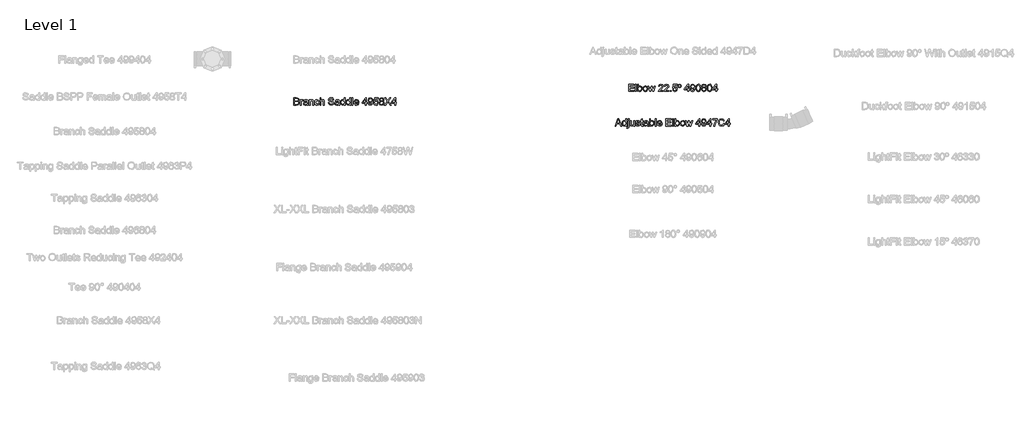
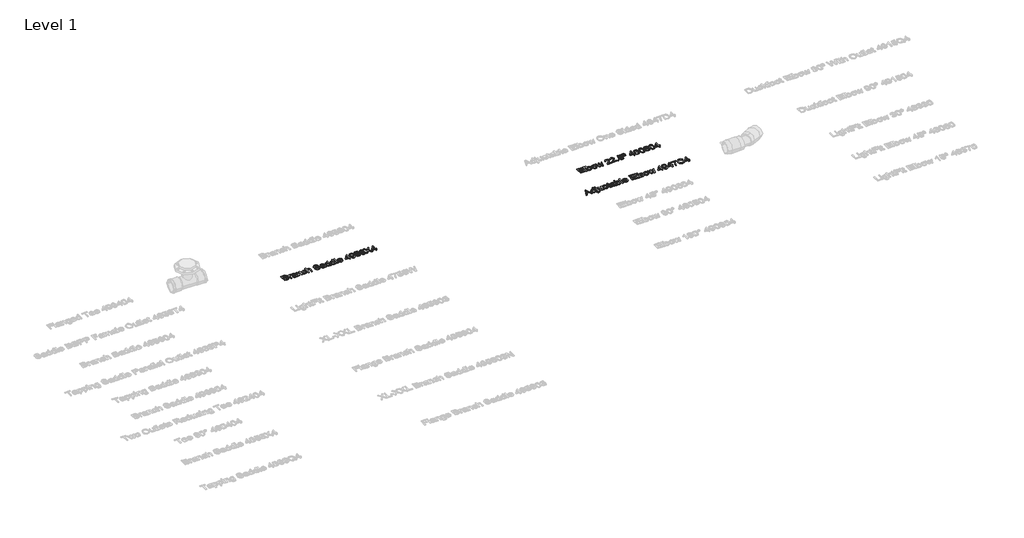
# One storey, part 14 of 38: 3 proxies.
"""IFC4 building model written with IfcOpenShell, lengths in millimetres."""

from ifc_helpers import new_model, si_unit, origin, origin_with_axes, place, context, project, spatial, polyline, outline, extrude, element, save

model = new_model("IFC4")

# Units and contexts
model_context = context("Model", 3, world=origin())
ifc_project = project(units=[si_unit("LENGTHUNIT", "METRE", prefix="MILLI")], contexts=[model_context])

# Site, building, storey
site = spatial("IfcSite", under=ifc_project)
building = spatial("IfcBuilding", under=site)
storey = spatial("IfcBuildingStorey", under=building, Name="Level 1", Elevation=0.0)

# Proxies
placement = place(None, origin())
element("IfcBuildingElementProxy", 1, Name="100 mm Arial", ObjectType="100 mm Arial", at=placement, inside=storey, context=model_context, shape_type="SweptSolid", body=[
    extrude(outline(polyline([(11300.1412583, 4708.1156584), (11300.1412583, 4767.1925814), (11342.6027968, 4767.1925814), (11342.6027968, 4759.8079661), (11307.5258737, 4759.8079661), (11307.5258737, 4742.2695045), (11340.756643, 4742.2695045), (11340.756643, 4734.8848891), (11307.5258737, 4734.8848891), (11307.5258737, 4715.5002738), (11343.5258737, 4715.5002738), (11343.5258737, 4708.1156584), (11300.1412583, 4708.1156584)])), origin_with_axes(), (0.0, 0.0, 1.0), 5.0),
    extrude(outline(polyline([(11353.6797199, 4708.1156584), (11353.6797199, 4767.1925814), (11361.0643353, 4767.1925814), (11361.0643353, 4708.1156584), (11353.6797199, 4708.1156584)])), origin_with_axes(), (0.0, 0.0, 1.0), 5.0),
    extrude(outline(polyline([(11379.5258737, 4708.1156584), (11372.1412583, 4708.1156584), (11372.1412583, 4767.1925814), (11379.5258737, 4767.1925814), (11379.5258737, 4745.2839276), (11384.6965468, 4750.6384949), (11391.1220276, 4752.4233507), (11398.521066, 4750.8151776), (11404.2614506, 4746.293543), (11407.787893, 4739.262293), (11409.0643353, 4730.4570045), (11407.7428208, 4720.5988314), (11403.7782776, 4713.2646968), (11397.9603689, 4708.7106103), (11391.0787583, 4707.1925814), (11384.5126526, 4709.1505141), (11379.5258737, 4715.0243122), (11379.5258737, 4708.1156584)]), holes=[polyline([(11379.5258737, 4730.1108507), (11381.5451045, 4719.7839276), (11390.444143, 4714.5771968), (11398.3479891, 4718.4137353), (11401.6797199, 4729.8512353), (11398.4850083, 4741.3320045), (11390.7614506, 4745.0387353), (11382.8576045, 4741.2021968), (11379.5258737, 4730.1108507)])]), origin_with_axes(), (0.0, 0.0, 1.0), 5.0),
    extrude(outline(polyline([(11415.5258737, 4729.8079661), (11417.1232295, 4740.2683026), (11421.9152968, 4747.6204661), (11434.9249122, 4752.4233507), (11442.6827247, 4750.9612113), (11448.8792391, 4746.574793), (11452.9411381, 4739.6102497), (11454.2951045, 4730.4137353), (11451.9008737, 4717.2743122), (11444.927316, 4709.8392161), (11434.9249122, 4707.1925814), (11427.0733497, 4708.6493122), (11420.8840468, 4713.0195045), (11416.865417, 4720.1300814), (11415.5258737, 4729.8079661)]), holes=[polyline([(11422.9104891, 4729.8223891), (11426.3287583, 4718.3776776), (11434.9249122, 4714.5771968), (11443.4922199, 4718.3993122), (11446.9104891, 4730.0531584), (11443.4705853, 4741.2382545), (11434.9249122, 4745.0387353), (11426.3287583, 4741.2526776), (11422.9104891, 4729.8223891)])]), origin_with_axes(), (0.0, 0.0, 1.0), 5.0),
    extrude(outline(polyline([(11469.7999122, 4708.1156584), (11456.6027968, 4751.5002738), (11464.2758737, 4751.5002738), (11471.7614506, 4726.1877738), (11473.9970276, 4717.1445045), (11475.8287583, 4725.856043), (11481.7854891, 4751.5002738), (11490.583566, 4751.5002738), (11496.5114506, 4725.9281584), (11498.1412583, 4718.0387353), (11500.4777968, 4726.3608507), (11507.9777968, 4751.5002738), (11515.6797199, 4751.5002738), (11502.381643, 4708.1156584), (11493.4537583, 4708.1156584), (11487.7854891, 4733.5579661), (11486.1412583, 4741.4906584), (11478.8287583, 4708.1156584), (11469.7999122, 4708.1156584)])), origin_with_axes(), (0.0, 0.0, 1.0), 5.0),
    extrude(outline(polyline([(11579.833566, 4715.5002738), (11579.833566, 4708.1156584), (11541.0643353, 4708.1156584), (11541.8576045, 4713.2070045), (11546.3431814, 4721.0459468), (11555.5883737, 4729.606043), (11568.3383737, 4741.9089276), (11571.5258737, 4750.2743122), (11568.5186622, 4757.0459468), (11560.6652968, 4759.8079661), (11552.4802006, 4757.1108507), (11549.3720276, 4749.6541199), (11541.9874122, 4750.5771968), (11547.6484699, 4762.9377738), (11560.8239506, 4767.1925814), (11574.0427006, 4762.4618122), (11578.9104891, 4750.7214276), (11577.5979891, 4743.7190238), (11573.2350083, 4736.4786391), (11562.6556814, 4726.3608507), (11554.1604891, 4719.2574853), (11550.8287583, 4715.5002738), (11579.833566, 4715.5002738)])), origin_with_axes(), (0.0, 0.0, 1.0), 5.0),
    extrude(outline(polyline([(11625.0643353, 4715.5002738), (11625.0643353, 4708.1156584), (11586.2951045, 4708.1156584), (11587.0883737, 4713.2070045), (11591.5739506, 4721.0459468), (11600.819143, 4729.606043), (11613.569143, 4741.9089276), (11616.756643, 4750.2743122), (11613.7494314, 4757.0459468), (11605.896066, 4759.8079661), (11597.7109699, 4757.1108507), (11594.6027968, 4749.6541199), (11587.2181814, 4750.5771968), (11592.8792391, 4762.9377738), (11606.0547199, 4767.1925814), (11619.2734699, 4762.4618122), (11624.1412583, 4750.7214276), (11622.8287583, 4743.7190238), (11618.4657776, 4736.4786391), (11607.8864506, 4726.3608507), (11599.3912583, 4719.2574853), (11596.0595276, 4715.5002738), (11625.0643353, 4715.5002738)])), origin_with_axes(), (0.0, 0.0, 1.0), 5.0),
    extrude(outline(polyline([(11636.1412583, 4708.1156584), (11636.1412583, 4715.5002738), (11643.5258737, 4715.5002738), (11643.5258737, 4708.1156584), (11636.1412583, 4708.1156584)])), origin_with_axes(), (0.0, 0.0, 1.0), 5.0),
    extrude(outline(polyline([(11655.5258737, 4723.8079661), (11662.9104891, 4724.731043), (11666.631643, 4717.1228699), (11674.3479891, 4714.5771968), (11683.6076045, 4718.1180622), (11686.9104891, 4727.5146968), (11683.8167391, 4736.2839276), (11674.4633737, 4739.5002738), (11667.9802006, 4738.2166199), (11663.833566, 4734.8848891), (11656.4489506, 4735.8079661), (11662.9104891, 4766.2695045), (11691.5258737, 4766.2695045), (11691.5258737, 4758.8848891), (11668.881643, 4758.8848891), (11665.7229891, 4742.6156584), (11676.5258737, 4746.8848891), (11689.1532776, 4741.5916199), (11694.2951045, 4727.9762353), (11689.6652968, 4714.2743122), (11683.0162583, 4708.9630141), (11674.319143, 4707.1925814), (11661.287893, 4711.7430622), (11655.5258737, 4723.8079661)])), origin_with_axes(), (0.0, 0.0, 1.0), 5.0),
    extrude(outline(polyline([(11712.2951045, 4768.1156584), (11721.944143, 4764.0627738), (11725.6797199, 4752.8704661), (11721.9225083, 4741.7070045), (11712.3383737, 4737.6541199), (11702.6677006, 4741.6276776), (11698.9104891, 4752.6973891), (11702.646066, 4764.0627738), (11712.2951045, 4768.1156584)]), holes=[polyline([(11712.2951045, 4762.5771968), (11707.9465468, 4760.3055622), (11706.2951045, 4752.8848891), (11707.975393, 4745.5291199), (11712.2951045, 4743.1925814), (11716.6292391, 4745.5291199), (11718.2951045, 4753.0868122), (11716.614816, 4760.262293), (11712.2951045, 4762.5771968)])]), origin_with_axes(), (0.0, 0.0, 1.0), 5.0),
    extrude(outline(polyline([(11778.2951045, 4708.1156584), (11778.2951045, 4721.9618122), (11751.5258737, 4721.9618122), (11751.5258737, 4729.3464276), (11780.1412583, 4766.2695045), (11785.6797199, 4766.2695045), (11785.6797199, 4729.3464276), (11793.0643353, 4729.3464276), (11793.0643353, 4721.9618122), (11785.6797199, 4721.9618122), (11785.6797199, 4708.1156584), (11778.2951045, 4708.1156584)]), holes=[polyline([(11778.2951045, 4729.3464276), (11778.2951045, 4752.1637353), (11760.6124122, 4729.3464276), (11778.2951045, 4729.3464276)])]), origin_with_axes(), (0.0, 0.0, 1.0), 5.0),
    extrude(outline(polyline([(11800.4489506, 4722.8848891), (11807.833566, 4723.8079661), (11811.1508737, 4716.762293), (11817.4393353, 4714.5771968), (11823.4177006, 4715.9834468), (11827.4705853, 4719.7406584), (11829.8864506, 4726.1589276), (11830.9537583, 4734.7262353), (11825.0042391, 4730.5723891), (11816.9056814, 4728.4233507), (11804.5667391, 4733.6733507), (11799.5258737, 4747.5050814), (11804.8119314, 4761.7839276), (11818.0595276, 4767.1925814), (11828.5811622, 4764.106043), (11835.8215468, 4755.3079661), (11838.2951045, 4738.7791199), (11835.8287583, 4720.8440238), (11828.4946237, 4710.6829661), (11817.0931814, 4707.1925814), (11805.7422199, 4711.3103699), (11800.4489506, 4722.8848891)]), holes=[polyline([(11830.9104891, 4747.6781584), (11827.7229891, 4756.5339276), (11819.256643, 4759.8079661), (11810.3720276, 4756.2815238), (11806.9104891, 4747.1445045), (11810.1845276, 4738.9594084), (11819.0547199, 4735.8079661), (11827.5715468, 4738.9594084), (11830.9104891, 4747.6781584)])]), origin_with_axes(), (0.0, 0.0, 1.0), 5.0),
    extrude(outline(polyline([(11844.756643, 4737.1781584), (11846.927316, 4754.1757545), (11853.3744314, 4763.9762353), (11864.1412583, 4767.1925814), (11872.7662583, 4765.2887353), (11878.7229891, 4759.8007545), (11882.1845276, 4751.0603699), (11883.5258737, 4737.1781584), (11881.3768353, 4720.2526776), (11874.9513545, 4710.4305622), (11864.1412583, 4707.1925814), (11856.4681814, 4708.5988314), (11850.6412583, 4712.8175814), (11846.2277968, 4722.809168), (11844.756643, 4737.1781584)]), holes=[polyline([(11852.1412583, 4737.1925814), (11855.6027968, 4718.8536391), (11864.1412583, 4714.5771968), (11872.6797199, 4718.8680622), (11876.1412583, 4737.1925814), (11872.7951045, 4755.3223891), (11864.0547199, 4759.8079661), (11855.7181814, 4755.856043), (11852.1412583, 4737.1925814)])]), origin_with_axes(), (0.0, 0.0, 1.0), 5.0),
    extrude(outline(polyline([(11900.7470276, 4740.6541199), (11894.0186622, 4745.2406584), (11891.833566, 4752.3800814), (11896.5931814, 4762.9233507), (11909.271066, 4767.1925814), (11922.0643353, 4762.8223891), (11926.9104891, 4752.1781584), (11924.7542391, 4745.2190238), (11918.2133737, 4740.6541199), (11926.0667391, 4734.8632545), (11928.756643, 4725.3079661), (11923.4201045, 4712.4137353), (11909.3720276, 4707.1925814), (11895.3239506, 4712.4353699), (11889.9874122, 4725.5098891), (11892.7854891, 4735.2887353), (11900.7470276, 4740.6541199)]), holes=[polyline([(11897.3720276, 4725.7695045), (11898.6052006, 4720.2094084), (11902.9681814, 4716.0483507), (11909.4297199, 4714.5771968), (11918.2277968, 4717.6709468), (11921.3720276, 4725.5387353), (11918.1268353, 4733.5579661), (11909.1845276, 4736.731043), (11900.4946237, 4733.6012353), (11897.3720276, 4725.7695045)]), polyline([(11899.2181814, 4752.1637353), (11901.8359699, 4746.3656584), (11909.458566, 4744.1156584), (11916.9297199, 4746.3512353), (11919.5258737, 4751.8320045), (11916.8431814, 4757.5074853), (11909.3720276, 4759.8079661), (11901.8792391, 4757.5579661), (11899.2181814, 4752.1637353)])]), origin_with_axes(), (0.0, 0.0, 1.0), 5.0),
    extrude(outline(polyline([(11935.2181814, 4737.1781584), (11937.3888545, 4754.1757545), (11943.8359699, 4763.9762353), (11954.6027968, 4767.1925814), (11963.2277968, 4765.2887353), (11969.1845276, 4759.8007545), (11972.646066, 4751.0603699), (11973.9874122, 4737.1781584), (11971.8383737, 4720.2526776), (11965.412893, 4710.4305622), (11954.6027968, 4707.1925814), (11946.9297199, 4708.5988314), (11941.1027968, 4712.8175814), (11936.6893353, 4722.809168), (11935.2181814, 4737.1781584)]), holes=[polyline([(11942.6027968, 4737.1925814), (11946.0643353, 4718.8536391), (11954.6027968, 4714.5771968), (11963.1412583, 4718.8680622), (11966.6027968, 4737.1925814), (11963.256643, 4755.3223891), (11954.5162583, 4759.8079661), (11946.1797199, 4755.856043), (11942.6027968, 4737.1925814)])]), origin_with_axes(), (0.0, 0.0, 1.0), 5.0),
    extrude(outline(polyline([(12004.4489506, 4708.1156584), (12004.4489506, 4721.9618122), (11977.6797199, 4721.9618122), (11977.6797199, 4729.3464276), (12006.2951045, 4766.2695045), (12011.833566, 4766.2695045), (12011.833566, 4729.3464276), (12019.2181814, 4729.3464276), (12019.2181814, 4721.9618122), (12011.833566, 4721.9618122), (12011.833566, 4708.1156584), (12004.4489506, 4708.1156584)]), holes=[polyline([(12004.4489506, 4729.3464276), (12004.4489506, 4752.1637353), (11986.7662583, 4729.3464276), (12004.4489506, 4729.3464276)])]), origin_with_axes(), (0.0, 0.0, 1.0), 5.0),
])
element("IfcBuildingElementProxy", 2, Name="100 mm Arial", ObjectType="100 mm Arial", at=placement, inside=storey, context=model_context, shape_type="SweptSolid", body=[
    extrude(outline(polyline([(11189.8768353, 4428.1156584), (11213.458566, 4487.1925814), (11219.7470276, 4487.1925814), (11243.3287583, 4428.1156584), (11235.5258737, 4428.1156584), (11228.7614506, 4446.5771968), (11204.4297199, 4446.5771968), (11197.6797199, 4428.1156584), (11189.8768353, 4428.1156584)]), holes=[polyline([(11207.1412583, 4453.9618122), (11226.0643353, 4453.9618122), (11220.7422199, 4468.4858507), (11216.6027968, 4479.8079661), (11212.9249122, 4469.7550814), (11207.1412583, 4453.9618122)])]), origin_with_axes(), (0.0, 0.0, 1.0), 5.0),
    extrude(outline(polyline([(11277.0643353, 4428.1156584), (11277.0643353, 4435.0820045), (11272.178518, 4429.1649372), (11265.4249122, 4427.1925814), (11256.2806814, 4430.0483507), (11249.819143, 4438.0171007), (11247.5258737, 4449.7646968), (11249.6388545, 4461.5195045), (11255.9705853, 4469.6108507), (11265.396066, 4472.4233507), (11272.2037583, 4470.4113314), (11277.0643353, 4465.1829661), (11277.0643353, 4487.1925814), (11284.4489506, 4487.1925814), (11284.4489506, 4428.1156584), (11277.0643353, 4428.1156584)]), holes=[polyline([(11254.9104891, 4449.793543), (11258.2422199, 4438.3632545), (11266.1027968, 4434.5771968), (11273.8696237, 4438.1901776), (11277.0643353, 4449.231043), (11273.8119314, 4461.2166199), (11265.7999122, 4465.0387353), (11258.0258737, 4461.3680622), (11254.9104891, 4449.793543)])]), origin_with_axes(), (0.0, 0.0, 1.0), 5.0),
    extrude(outline(polyline([(11295.5258737, 4479.8079661), (11295.5258737, 4487.1925814), (11302.9104891, 4487.1925814), (11302.9104891, 4479.8079661), (11295.5258737, 4479.8079661)])), origin_with_axes(), (0.0, 0.0, 1.0), 5.0),
    extrude(outline(polyline([(11286.2229891, 4411.4714276), (11287.7806814, 4418.4954661), (11291.1701045, 4417.9618122), (11294.4513545, 4419.4257545), (11295.5258737, 4426.7454661), (11295.5258737, 4471.5002738), (11302.9104891, 4471.5002738), (11302.9104891, 4425.793543), (11300.819143, 4414.6589276), (11291.9922199, 4410.5771968), (11286.2229891, 4411.4714276)])), origin_with_axes(), (0.0, 0.0, 1.0), 5.0),
    extrude(outline(polyline([(11341.6797199, 4428.1156584), (11341.6797199, 4435.5723891), (11335.896066, 4429.2875334), (11328.3527968, 4427.1925814), (11321.4080853, 4428.6637353), (11316.6196237, 4432.356043), (11314.4201045, 4437.793543), (11313.9874122, 4444.6589276), (11313.9874122, 4471.5002738), (11321.3720276, 4471.5002738), (11321.3720276, 4448.1348891), (11321.819143, 4440.606043), (11324.739816, 4436.1853699), (11330.2422199, 4434.5771968), (11336.4080853, 4436.2214276), (11340.4826045, 4440.699793), (11341.6797199, 4448.9281584), (11341.6797199, 4471.5002738), (11349.0643353, 4471.5002738), (11349.0643353, 4428.1156584), (11341.6797199, 4428.1156584)])), origin_with_axes(), (0.0, 0.0, 1.0), 5.0),
    extrude(outline(polyline([(11356.4489506, 4441.0387353), (11363.833566, 4441.9618122), (11367.2518353, 4436.481043), (11375.083566, 4434.5771968), (11382.6124122, 4436.3223891), (11385.0643353, 4440.418543), (11382.5979891, 4443.7358507), (11374.9970276, 4445.8416199), (11363.8768353, 4449.4546007), (11359.0234699, 4453.6733507), (11357.3720276, 4459.6300814), (11358.6989506, 4465.1324853), (11362.319143, 4469.3368122), (11367.0138545, 4471.5219084), (11373.3672199, 4472.4233507), (11382.3527968, 4470.9738314), (11388.0643353, 4467.0507545), (11390.6027968, 4460.4233507), (11383.2181814, 4459.5002738), (11380.4417391, 4463.574793), (11373.944143, 4465.0387353), (11366.8768353, 4463.6396968), (11364.756643, 4460.3800814), (11365.6364506, 4458.231043), (11368.3912583, 4456.6012353), (11374.7518353, 4455.0291199), (11385.5907776, 4451.5531584), (11390.6244314, 4447.6156584), (11392.4489506, 4441.1973891), (11390.3071237, 4434.1300814), (11384.1268353, 4429.0026776), (11374.9826045, 4427.1925814), (11362.1027968, 4430.6829661), (11356.4489506, 4441.0387353)])), origin_with_axes(), (0.0, 0.0, 1.0), 5.0),
    extrude(outline(polyline([(11416.4489506, 4434.2743122), (11417.3720276, 4427.8993122), (11411.8479891, 4427.1925814), (11405.6604891, 4428.418543), (11402.5739506, 4431.6348891), (11401.6797199, 4440.0146968), (11401.6797199, 4464.1156584), (11396.1412583, 4464.1156584), (11396.1412583, 4471.5002738), (11401.6797199, 4471.5002738), (11401.6797199, 4482.043543), (11409.0643353, 4486.3848891), (11409.0643353, 4471.5002738), (11416.4489506, 4471.5002738), (11416.4489506, 4464.1156584), (11409.0643353, 4464.1156584), (11409.0643353, 4440.231043), (11409.4537583, 4436.4233507), (11410.7157776, 4435.074793), (11413.2326045, 4434.5771968), (11416.4489506, 4434.2743122)])), origin_with_axes(), (0.0, 0.0, 1.0), 5.0),
    extrude(outline(polyline([(11451.5258737, 4433.6541199), (11444.364816, 4428.6493122), (11436.4537583, 4427.1925814), (11425.7302006, 4430.6973891), (11421.9874122, 4439.6541199), (11423.4008737, 4445.4954661), (11427.114816, 4449.7358507), (11432.2854891, 4452.1589276), (11438.6749122, 4453.2695045), (11451.4826045, 4455.8079661), (11451.5258737, 4457.4521968), (11449.4922199, 4462.9041199), (11441.3287583, 4465.0387353), (11433.8576045, 4463.6180622), (11430.2951045, 4458.5771968), (11422.9104891, 4459.5002738), (11426.1052006, 4466.7118122), (11432.537893, 4470.9377738), (11442.2806814, 4472.4233507), (11451.2302006, 4471.1108507), (11456.2854891, 4467.8151776), (11458.5499122, 4462.8031584), (11458.9104891, 4456.3416199), (11458.9104891, 4447.1541199), (11459.2854891, 4434.324793), (11460.756643, 4428.1156584), (11453.3720276, 4428.1156584), (11451.5258737, 4433.6541199)]), holes=[polyline([(11451.5258737, 4448.4233507), (11439.6124122, 4446.1589276), (11433.2590468, 4444.9618122), (11430.381643, 4443.0146968), (11429.3720276, 4440.1733507), (11431.5715468, 4436.1781584), (11438.0258737, 4434.5771968), (11445.4970276, 4436.3440238), (11450.3143353, 4440.6204661), (11451.4826045, 4446.3320045), (11451.5258737, 4448.4233507)])]), origin_with_axes(), (0.0, 0.0, 1.0), 5.0),
    extrude(outline(polyline([(11476.4489506, 4428.1156584), (11469.0643353, 4428.1156584), (11469.0643353, 4487.1925814), (11476.4489506, 4487.1925814), (11476.4489506, 4465.2839276), (11481.6196237, 4470.6384949), (11488.0451045, 4472.4233507), (11495.444143, 4470.8151776), (11501.1845276, 4466.293543), (11504.7109699, 4459.262293), (11505.9874122, 4450.4570045), (11504.6658978, 4440.5988314), (11500.7013545, 4433.2646968), (11494.8834458, 4428.7106103), (11488.0018353, 4427.1925814), (11481.4357295, 4429.1505141), (11476.4489506, 4435.0243122), (11476.4489506, 4428.1156584)]), holes=[polyline([(11476.4489506, 4450.1108507), (11478.4681814, 4439.7839276), (11487.3672199, 4434.5771968), (11495.271066, 4438.4137353), (11498.6027968, 4449.8512353), (11495.4080853, 4461.3320045), (11487.6845276, 4465.0387353), (11479.7806814, 4461.2021968), (11476.4489506, 4450.1108507)])]), origin_with_axes(), (0.0, 0.0, 1.0), 5.0),
    extrude(outline(polyline([(11514.2951045, 4428.1156584), (11514.2951045, 4487.1925814), (11521.6797199, 4487.1925814), (11521.6797199, 4428.1156584), (11514.2951045, 4428.1156584)])), origin_with_axes(), (0.0, 0.0, 1.0), 5.0),
    extrude(outline(polyline([(11563.131643, 4441.0387353), (11570.3720276, 4440.1156584), (11563.600393, 4430.5820045), (11550.9874122, 4427.1925814), (11542.3227487, 4428.6547209), (11535.6556814, 4433.0411391), (11531.4044795, 4440.0669805), (11529.9874122, 4449.4473891), (11531.4189026, 4459.1433026), (11535.7133737, 4466.3945045), (11542.2902968, 4470.9161391), (11550.569143, 4472.4233507), (11558.5901766, 4470.9197449), (11564.9994314, 4466.4089276), (11569.2019555, 4459.1721488), (11570.6027968, 4449.4906584), (11570.5595276, 4447.5002738), (11537.3720276, 4447.5002738), (11541.6196237, 4437.9089276), (11551.131643, 4434.5771968), (11558.3720276, 4436.1204661), (11563.131643, 4441.0387353)]), holes=[polyline([(11537.3720276, 4454.8848891), (11563.2181814, 4454.8848891), (11560.2614506, 4461.5771968), (11550.5402968, 4465.0387353), (11541.4465468, 4462.2767161), (11537.3720276, 4454.8848891)])]), origin_with_axes(), (0.0, 0.0, 1.0), 5.0),
    extrude(outline(polyline([(11601.9874122, 4428.1156584), (11601.9874122, 4487.1925814), (11644.4489506, 4487.1925814), (11644.4489506, 4479.8079661), (11609.3720276, 4479.8079661), (11609.3720276, 4462.2695045), (11642.6027968, 4462.2695045), (11642.6027968, 4454.8848891), (11609.3720276, 4454.8848891), (11609.3720276, 4435.5002738), (11645.3720276, 4435.5002738), (11645.3720276, 4428.1156584), (11601.9874122, 4428.1156584)])), origin_with_axes(), (0.0, 0.0, 1.0), 5.0),
    extrude(outline(polyline([(11655.5258737, 4428.1156584), (11655.5258737, 4487.1925814), (11662.9104891, 4487.1925814), (11662.9104891, 4428.1156584), (11655.5258737, 4428.1156584)])), origin_with_axes(), (0.0, 0.0, 1.0), 5.0),
    extrude(outline(polyline([(11681.3720276, 4428.1156584), (11673.9874122, 4428.1156584), (11673.9874122, 4487.1925814), (11681.3720276, 4487.1925814), (11681.3720276, 4465.2839276), (11686.5427006, 4470.6384949), (11692.9681814, 4472.4233507), (11700.3672199, 4470.8151776), (11706.1076045, 4466.293543), (11709.6340468, 4459.262293), (11710.9104891, 4450.4570045), (11709.5889747, 4440.5988314), (11705.6244314, 4433.2646968), (11699.8065228, 4428.7106103), (11692.9249122, 4427.1925814), (11686.3588064, 4429.1505141), (11681.3720276, 4435.0243122), (11681.3720276, 4428.1156584)]), holes=[polyline([(11681.3720276, 4450.1108507), (11683.3912583, 4439.7839276), (11692.2902968, 4434.5771968), (11700.194143, 4438.4137353), (11703.5258737, 4449.8512353), (11700.3311622, 4461.3320045), (11692.6076045, 4465.0387353), (11684.7037583, 4461.2021968), (11681.3720276, 4450.1108507)])]), origin_with_axes(), (0.0, 0.0, 1.0), 5.0),
    extrude(outline(polyline([(11717.3720276, 4449.8079661), (11718.9693833, 4460.2683026), (11723.7614506, 4467.6204661), (11736.771066, 4472.4233507), (11744.5288785, 4470.9612113), (11750.725393, 4466.574793), (11754.787292, 4459.6102497), (11756.1412583, 4450.4137353), (11753.7470276, 4437.2743122), (11746.7734699, 4429.8392161), (11736.771066, 4427.1925814), (11728.9195035, 4428.6493122), (11722.7302006, 4433.0195045), (11718.7115708, 4440.1300814), (11717.3720276, 4449.8079661)]), holes=[polyline([(11724.756643, 4449.8223891), (11728.1749122, 4438.3776776), (11736.771066, 4434.5771968), (11745.3383737, 4438.3993122), (11748.756643, 4450.0531584), (11745.3167391, 4461.2382545), (11736.771066, 4465.0387353), (11728.1749122, 4461.2526776), (11724.756643, 4449.8223891)])]), origin_with_axes(), (0.0, 0.0, 1.0), 5.0),
    extrude(outline(polyline([(11771.646066, 4428.1156584), (11758.4489506, 4471.5002738), (11766.1220276, 4471.5002738), (11773.6076045, 4446.1877738), (11775.8431814, 4437.1445045), (11777.6749122, 4445.856043), (11783.631643, 4471.5002738), (11792.4297199, 4471.5002738), (11798.3576045, 4445.9281584), (11799.9874122, 4438.0387353), (11802.3239506, 4446.3608507), (11809.8239506, 4471.5002738), (11817.5258737, 4471.5002738), (11804.2277968, 4428.1156584), (11795.2999122, 4428.1156584), (11789.631643, 4453.5579661), (11787.9874122, 4461.4906584), (11780.6749122, 4428.1156584), (11771.646066, 4428.1156584)])), origin_with_axes(), (0.0, 0.0, 1.0), 5.0),
    extrude(outline(polyline([(11867.833566, 4428.1156584), (11867.833566, 4441.9618122), (11841.0643353, 4441.9618122), (11841.0643353, 4449.3464276), (11869.6797199, 4486.2695045), (11875.2181814, 4486.2695045), (11875.2181814, 4449.3464276), (11882.6027968, 4449.3464276), (11882.6027968, 4441.9618122), (11875.2181814, 4441.9618122), (11875.2181814, 4428.1156584), (11867.833566, 4428.1156584)]), holes=[polyline([(11867.833566, 4449.3464276), (11867.833566, 4472.1637353), (11850.1508737, 4449.3464276), (11867.833566, 4449.3464276)])]), origin_with_axes(), (0.0, 0.0, 1.0), 5.0),
    extrude(outline(polyline([(11889.9874122, 4442.8848891), (11897.3720276, 4443.8079661), (11900.6893353, 4436.762293), (11906.9777968, 4434.5771968), (11912.9561622, 4435.9834468), (11917.0090468, 4439.7406584), (11919.4249122, 4446.1589276), (11920.4922199, 4454.7262353), (11914.5427006, 4450.5723891), (11906.444143, 4448.4233507), (11894.1052006, 4453.6733507), (11889.0643353, 4467.5050814), (11894.350393, 4481.7839276), (11907.5979891, 4487.1925814), (11918.1196237, 4484.106043), (11925.3600083, 4475.3079661), (11927.833566, 4458.7791199), (11925.3672199, 4440.8440238), (11918.0330853, 4430.6829661), (11906.631643, 4427.1925814), (11895.2806814, 4431.3103699), (11889.9874122, 4442.8848891)]), holes=[polyline([(11920.4489506, 4467.6781584), (11917.2614506, 4476.5339276), (11908.7951045, 4479.8079661), (11899.9104891, 4476.2815238), (11896.4489506, 4467.1445045), (11899.7229891, 4458.9594084), (11908.5931814, 4455.8079661), (11917.1100083, 4458.9594084), (11920.4489506, 4467.6781584)])]), origin_with_axes(), (0.0, 0.0, 1.0), 5.0),
    extrude(outline(polyline([(11958.2951045, 4428.1156584), (11958.2951045, 4441.9618122), (11931.5258737, 4441.9618122), (11931.5258737, 4449.3464276), (11960.1412583, 4486.2695045), (11965.6797199, 4486.2695045), (11965.6797199, 4449.3464276), (11973.0643353, 4449.3464276), (11973.0643353, 4441.9618122), (11965.6797199, 4441.9618122), (11965.6797199, 4428.1156584), (11958.2951045, 4428.1156584)]), holes=[polyline([(11958.2951045, 4449.3464276), (11958.2951045, 4472.1637353), (11940.6124122, 4449.3464276), (11958.2951045, 4449.3464276)])]), origin_with_axes(), (0.0, 0.0, 1.0), 5.0),
    extrude(outline(polyline([(11979.5258737, 4478.8848891), (11979.5258737, 4486.2695045), (12018.2951045, 4486.2695045), (12018.2951045, 4480.2983507), (12007.2975083, 4464.4113314), (11998.881643, 4444.168543), (11996.1412583, 4428.1156584), (11988.756643, 4428.1156584), (11991.6917391, 4444.7743122), (11999.7470276, 4463.6036391), (12010.9104891, 4478.8848891), (11979.5258737, 4478.8848891)])), origin_with_axes(), (0.0, 0.0, 1.0), 5.0),
    extrude(outline(polyline([(12069.0643353, 4449.1156584), (12076.4489506, 4447.2118122), (12067.694143, 4432.3199853), (12052.2326045, 4427.1925814), (12036.864816, 4431.0723891), (12027.850393, 4442.3079661), (12024.756643, 4458.1012353), (12028.2542391, 4474.1541199), (12038.1989506, 4484.5603699), (12052.3912583, 4488.1156584), (12067.1821237, 4483.5146968), (12075.5258737, 4470.5627738), (12068.1412583, 4468.8031584), (12062.083566, 4477.8824853), (12052.1027968, 4480.731043), (12040.5499122, 4477.5723891), (12034.0234699, 4469.0916199), (12032.1412583, 4458.1156584), (12034.3696237, 4445.3945045), (12041.3071237, 4437.2671007), (12051.4970276, 4434.5771968), (12062.7975083, 4438.2406584), (12069.0643353, 4449.1156584)])), origin_with_axes(), (0.0, 0.0, 1.0), 5.0),
    extrude(outline(polyline([(12107.833566, 4428.1156584), (12107.833566, 4441.9618122), (12081.0643353, 4441.9618122), (12081.0643353, 4449.3464276), (12109.6797199, 4486.2695045), (12115.2181814, 4486.2695045), (12115.2181814, 4449.3464276), (12122.6027968, 4449.3464276), (12122.6027968, 4441.9618122), (12115.2181814, 4441.9618122), (12115.2181814, 4428.1156584), (12107.833566, 4428.1156584)]), holes=[polyline([(12107.833566, 4449.3464276), (12107.833566, 4472.1637353), (12090.1508737, 4449.3464276), (12107.833566, 4449.3464276)])]), origin_with_axes(), (0.0, 0.0, 1.0), 5.0),
])
element("IfcBuildingElementProxy", 3, Name="100 mm Arial", ObjectType="100 mm Arial", at=placement, inside=storey, context=model_context, shape_type="SweptSolid", body=[
    extrude(outline(polyline([(8589.6731533, 4597.5779735), (8589.6731533, 4656.6548966), (8612.2164226, 4656.6548966), (8623.257288, 4654.9169158), (8629.7765187, 4649.5731658), (8632.1346918, 4642.0154735), (8630.1515187, 4635.1140312), (8624.1587303, 4629.8856658), (8631.4351726, 4624.3760505), (8633.9808456, 4615.1885505), (8632.2428649, 4607.2486466), (8627.9375764, 4601.5948005), (8621.5120956, 4598.5948005), (8612.0433456, 4597.5779735), (8589.6731533, 4597.5779735)]), holes=[polyline([(8597.0577687, 4604.9625889), (8612.2019995, 4604.9625889), (8617.6827687, 4605.2510505), (8622.319788, 4606.8592235), (8625.3919033, 4610.1404735), (8626.5962303, 4615.1164351), (8625.1827687, 4620.8568197), (8620.6034418, 4624.2823005), (8611.4808456, 4625.2702812), (8597.0577687, 4625.2702812), (8597.0577687, 4604.9625889)]), polyline([(8597.0577687, 4632.6548966), (8610.5433456, 4632.6548966), (8618.4183456, 4633.289512), (8623.1563264, 4636.0226851), (8624.7500764, 4640.8327812), (8623.2644995, 4645.6500889), (8619.0096918, 4648.4986466), (8609.5193072, 4649.2702812), (8597.0577687, 4649.2702812), (8597.0577687, 4632.6548966)])]), origin_with_axes(), (0.0, 0.0, 1.0), 5.0),
    extrude(outline(polyline([(8643.2116149, 4597.5779735), (8643.2116149, 4640.9625889), (8649.6731533, 4640.9625889), (8649.6731533, 4634.5443197), (8654.2596918, 4640.4577812), (8658.8750764, 4641.8856658), (8666.288538, 4639.6068197), (8663.8221918, 4632.9866274), (8658.6298841, 4634.5010505), (8654.4544033, 4633.0443197), (8651.7933456, 4629.0058582), (8650.5962303, 4620.3808582), (8650.5962303, 4597.5779735), (8643.2116149, 4597.5779735)])), origin_with_axes(), (0.0, 0.0, 1.0), 5.0),
    extrude(outline(polyline([(8698.5962303, 4603.1164351), (8691.4351726, 4598.1116274), (8683.5241149, 4596.6548966), (8672.8005572, 4600.1597043), (8669.0577687, 4609.1164351), (8670.4712303, 4614.9577812), (8674.1851726, 4619.1981658), (8679.3558456, 4621.6212428), (8685.7452687, 4622.7318197), (8698.552961, 4625.2702812), (8698.5962303, 4626.914512), (8696.5625764, 4632.3664351), (8688.3991149, 4634.5010505), (8680.927961, 4633.0803774), (8677.365461, 4628.039512), (8669.9808456, 4628.9625889), (8673.1755572, 4636.1741274), (8679.6082495, 4640.4000889), (8689.351038, 4641.8856658), (8698.3005572, 4640.5731658), (8703.3558456, 4637.2774928), (8705.6202687, 4632.2654735), (8705.9808456, 4625.8039351), (8705.9808456, 4616.6164351), (8706.3558456, 4603.7871082), (8707.8269995, 4597.5779735), (8700.4423841, 4597.5779735), (8698.5962303, 4603.1164351)]), holes=[polyline([(8698.5962303, 4617.8856658), (8686.6827687, 4615.6212428), (8680.3294033, 4614.4241274), (8677.4519995, 4612.477012), (8676.4423841, 4609.6356658), (8678.6419033, 4605.6404735), (8685.0962303, 4604.039512), (8692.5673841, 4605.8063389), (8697.3846918, 4610.0827812), (8698.552961, 4615.7943197), (8698.5962303, 4617.8856658)])]), origin_with_axes(), (0.0, 0.0, 1.0), 5.0),
    extrude(outline(polyline([(8716.1346918, 4597.5779735), (8716.1346918, 4640.9625889), (8723.5193072, 4640.9625889), (8723.5193072, 4634.9048966), (8729.1659418, 4640.1404735), (8736.8750764, 4641.8856658), (8743.8486341, 4640.4794158), (8748.6082495, 4636.7871082), (8750.8221918, 4631.3568197), (8751.2116149, 4624.2173966), (8751.2116149, 4597.5779735), (8743.8269995, 4597.5779735), (8743.8269995, 4623.2222043), (8742.976038, 4629.7558582), (8739.9688264, 4633.2101851), (8734.8991149, 4634.5010505), (8726.8870956, 4631.602012), (8723.5193072, 4620.5972043), (8723.5193072, 4597.5779735), (8716.1346918, 4597.5779735)])), origin_with_axes(), (0.0, 0.0, 1.0), 5.0),
    extrude(outline(polyline([(8789.0577687, 4613.2702812), (8796.4423841, 4612.3472043), (8790.5144995, 4600.8159543), (8778.802961, 4596.6548966), (8770.9477928, 4598.1062187), (8764.8053649, 4602.4601851), (8760.8408216, 4609.5256899), (8759.5193072, 4619.1116274), (8761.7765187, 4631.3784543), (8768.6563264, 4639.2606658), (8778.7019995, 4641.8856658), (8789.9303649, 4638.2798966), (8795.5193072, 4628.039512), (8788.1346918, 4627.1164351), (8784.709211, 4632.6476851), (8778.7596918, 4634.5010505), (8770.1995956, 4630.852012), (8766.9039226, 4619.3135505), (8770.1274803, 4607.6669158), (8778.5577687, 4604.039512), (8785.5169033, 4606.3039351), (8789.0577687, 4613.2702812)])), origin_with_axes(), (0.0, 0.0, 1.0), 5.0),
    extrude(outline(polyline([(8802.9039226, 4597.5779735), (8802.9039226, 4656.6548966), (8810.288538, 4656.6548966), (8810.288538, 4634.9337428), (8816.0469514, 4640.1476851), (8823.1394995, 4641.8856658), (8831.4327687, 4639.9890312), (8836.4664226, 4634.7462428), (8837.9808456, 4625.039512), (8837.9808456, 4597.5779735), (8830.5962303, 4597.5779735), (8830.5962303, 4624.2750889), (8828.2452687, 4632.0635505), (8821.5818072, 4634.5010505), (8815.5313264, 4632.8568197), (8811.4928649, 4628.4000889), (8810.288538, 4620.6260505), (8810.288538, 4597.5779735), (8802.9039226, 4597.5779735)])), origin_with_axes(), (0.0, 0.0, 1.0), 5.0),
    extrude(outline(polyline([(8869.365461, 4617.8856658), (8876.7500764, 4617.8856658), (8879.1298841, 4610.4938389), (8884.9423841, 4605.820762), (8893.7981533, 4604.039512), (8901.5144995, 4605.3880697), (8906.4976726, 4609.0948005), (8908.1346918, 4614.0491274), (8906.9087303, 4618.6573005), (8901.8894995, 4622.0106658), (8891.1370956, 4624.8303774), (8879.5625764, 4628.4722043), (8873.2813264, 4633.9673966), (8871.2116149, 4641.3087428), (8873.771711, 4649.6669158), (8881.2500764, 4655.5659543), (8892.1971918, 4657.5779735), (8903.8798841, 4655.4722043), (8911.6683456, 4649.2847043), (8914.5962303, 4640.039512), (8907.2116149, 4640.039512), (8903.0289226, 4647.6260505), (8892.4856533, 4650.1933582), (8881.913538, 4647.6548966), (8878.5962303, 4641.5250889), (8880.9471918, 4636.4048966), (8893.0048841, 4632.2798966), (8906.0721918, 4628.5731658), (8913.2188264, 4622.5875889), (8915.5193072, 4614.2366274), (8912.8726726, 4605.4024928), (8905.257288, 4598.9553774), (8894.0866149, 4596.6548966), (8880.896711, 4599.1356658), (8872.552961, 4606.6068197), (8869.365461, 4617.8856658)])), origin_with_axes(), (0.0, 0.0, 1.0), 5.0),
    extrude(outline(polyline([(8953.365461, 4603.1164351), (8946.2044033, 4598.1116274), (8938.2933456, 4596.6548966), (8927.569788, 4600.1597043), (8923.8269995, 4609.1164351), (8925.240461, 4614.9577812), (8928.9544033, 4619.1981658), (8934.1250764, 4621.6212428), (8940.5144995, 4622.7318197), (8953.3221918, 4625.2702812), (8953.365461, 4626.914512), (8951.3318072, 4632.3664351), (8943.1683456, 4634.5010505), (8935.6971918, 4633.0803774), (8932.1346918, 4628.039512), (8924.7500764, 4628.9625889), (8927.944788, 4636.1741274), (8934.3774803, 4640.4000889), (8944.1202687, 4641.8856658), (8953.069788, 4640.5731658), (8958.1250764, 4637.2774928), (8960.3894995, 4632.2654735), (8960.7500764, 4625.8039351), (8960.7500764, 4616.6164351), (8961.1250764, 4603.7871082), (8962.5962303, 4597.5779735), (8955.2116149, 4597.5779735), (8953.365461, 4603.1164351)]), holes=[polyline([(8953.365461, 4617.8856658), (8941.4519995, 4615.6212428), (8935.0986341, 4614.4241274), (8932.2212303, 4612.477012), (8931.2116149, 4609.6356658), (8933.4111341, 4605.6404735), (8939.865461, 4604.039512), (8947.3366149, 4605.8063389), (8952.1539226, 4610.0827812), (8953.3221918, 4615.7943197), (8953.365461, 4617.8856658)])]), origin_with_axes(), (0.0, 0.0, 1.0), 5.0),
    extrude(outline(polyline([(8997.6731533, 4597.5779735), (8997.6731533, 4604.5443197), (8992.787336, 4598.6272524), (8986.0337303, 4596.6548966), (8976.8894995, 4599.5106658), (8970.427961, 4607.4794158), (8968.1346918, 4619.227012), (8970.2476726, 4630.9818197), (8976.5794033, 4639.0731658), (8986.0048841, 4641.8856658), (8992.8125764, 4639.8736466), (8997.6731533, 4634.6452812), (8997.6731533, 4656.6548966), (9005.0577687, 4656.6548966), (9005.0577687, 4597.5779735), (8997.6731533, 4597.5779735)]), holes=[polyline([(8975.5193072, 4619.2558582), (8978.851038, 4607.8255697), (8986.7116149, 4604.039512), (8994.4784418, 4607.6524928), (8997.6731533, 4618.6933582), (8994.4207495, 4630.6789351), (8986.4087303, 4634.5010505), (8978.6346918, 4630.8303774), (8975.5193072, 4619.2558582)])]), origin_with_axes(), (0.0, 0.0, 1.0), 5.0),
    extrude(outline(polyline([(9042.9039226, 4597.5779735), (9042.9039226, 4604.5443197), (9038.0181053, 4598.6272524), (9031.2644995, 4596.6548966), (9022.1202687, 4599.5106658), (9015.6587303, 4607.4794158), (9013.365461, 4619.227012), (9015.4784418, 4630.9818197), (9021.8101726, 4639.0731658), (9031.2356533, 4641.8856658), (9038.0433456, 4639.8736466), (9042.9039226, 4634.6452812), (9042.9039226, 4656.6548966), (9050.288538, 4656.6548966), (9050.288538, 4597.5779735), (9042.9039226, 4597.5779735)]), holes=[polyline([(9020.7500764, 4619.2558582), (9024.0818072, 4607.8255697), (9031.9423841, 4604.039512), (9039.709211, 4607.6524928), (9042.9039226, 4618.6933582), (9039.6515187, 4630.6789351), (9031.6394995, 4634.5010505), (9023.865461, 4630.8303774), (9020.7500764, 4619.2558582)])]), origin_with_axes(), (0.0, 0.0, 1.0), 5.0),
    extrude(outline(polyline([(9061.365461, 4597.5779735), (9061.365461, 4656.6548966), (9068.7500764, 4656.6548966), (9068.7500764, 4597.5779735), (9061.365461, 4597.5779735)])), origin_with_axes(), (0.0, 0.0, 1.0), 5.0),
    extrude(outline(polyline([(9110.2019995, 4610.5010505), (9117.4423841, 4609.5779735), (9110.6707495, 4600.0443197), (9098.0577687, 4596.6548966), (9089.3931053, 4598.117036), (9082.726038, 4602.5034543), (9078.474836, 4609.5292957), (9077.0577687, 4618.9097043), (9078.4892591, 4628.6056178), (9082.7837303, 4635.8568197), (9089.3606533, 4640.3784543), (9097.6394995, 4641.8856658), (9105.6605331, 4640.3820601), (9112.069788, 4635.8712428), (9116.272312, 4628.6344639), (9117.6731533, 4618.9529735), (9117.6298841, 4616.9625889), (9084.4423841, 4616.9625889), (9088.6899803, 4607.3712428), (9098.2019995, 4604.039512), (9105.4423841, 4605.5827812), (9110.2019995, 4610.5010505)]), holes=[polyline([(9084.4423841, 4624.3472043), (9110.288538, 4624.3472043), (9107.3318072, 4631.039512), (9097.6106533, 4634.5010505), (9088.5169033, 4631.7390312), (9084.4423841, 4624.3472043)])]), origin_with_axes(), (0.0, 0.0, 1.0), 5.0),
    extrude(outline(polyline([(9170.288538, 4597.5779735), (9170.288538, 4611.4241274), (9143.5193072, 4611.4241274), (9143.5193072, 4618.8087428), (9172.1346918, 4655.7318197), (9177.6731533, 4655.7318197), (9177.6731533, 4618.8087428), (9185.0577687, 4618.8087428), (9185.0577687, 4611.4241274), (9177.6731533, 4611.4241274), (9177.6731533, 4597.5779735), (9170.288538, 4597.5779735)]), holes=[polyline([(9170.288538, 4618.8087428), (9170.288538, 4641.6260505), (9152.6058456, 4618.8087428), (9170.288538, 4618.8087428)])]), origin_with_axes(), (0.0, 0.0, 1.0), 5.0),
    extrude(outline(polyline([(9192.4423841, 4612.3472043), (9199.8269995, 4613.2702812), (9203.1443072, 4606.2246082), (9209.4327687, 4604.039512), (9215.4111341, 4605.445762), (9219.4640187, 4609.2029735), (9221.8798841, 4615.6212428), (9222.9471918, 4624.1885505), (9216.9976726, 4620.0347043), (9208.8991149, 4617.8856658), (9196.5601726, 4623.1356658), (9191.5193072, 4636.9673966), (9196.8053649, 4651.2462428), (9210.052961, 4656.6548966), (9220.5745956, 4653.5683582), (9227.8149803, 4644.7702812), (9230.288538, 4628.2414351), (9227.8221918, 4610.3063389), (9220.4880572, 4600.1452812), (9209.0866149, 4596.6548966), (9197.7356533, 4600.7726851), (9192.4423841, 4612.3472043)]), holes=[polyline([(9222.9039226, 4637.1404735), (9219.7164226, 4645.9962428), (9211.2500764, 4649.2702812), (9202.365461, 4645.7438389), (9198.9039226, 4636.6068197), (9202.177961, 4628.4217235), (9211.0481533, 4625.2702812), (9219.5649803, 4628.4217235), (9222.9039226, 4637.1404735)])]), origin_with_axes(), (0.0, 0.0, 1.0), 5.0),
    extrude(outline(polyline([(9236.7500764, 4613.2702812), (9244.1346918, 4614.1933582), (9247.8558456, 4606.5851851), (9255.5721918, 4604.039512), (9264.8318072, 4607.5803774), (9268.1346918, 4616.977012), (9265.0409418, 4625.7462428), (9255.6875764, 4628.9625889), (9249.2044033, 4627.6789351), (9245.0577687, 4624.3472043), (9237.6731533, 4625.2702812), (9244.1346918, 4655.7318197), (9272.7500764, 4655.7318197), (9272.7500764, 4648.3472043), (9250.1058456, 4648.3472043), (9246.9471918, 4632.0779735), (9257.7500764, 4636.3472043), (9270.3774803, 4631.0539351), (9275.5193072, 4617.4385505), (9270.8894995, 4603.7366274), (9264.240461, 4598.4253293), (9255.5433456, 4596.6548966), (9242.5120956, 4601.2053774), (9236.7500764, 4613.2702812)])), origin_with_axes(), (0.0, 0.0, 1.0), 5.0),
    extrude(outline(polyline([(9292.740461, 4630.1164351), (9286.0120956, 4634.7029735), (9283.8269995, 4641.8423966), (9288.5866149, 4652.3856658), (9301.2644995, 4656.6548966), (9314.0577687, 4652.2847043), (9318.9039226, 4641.6404735), (9316.7476726, 4634.6813389), (9310.2068072, 4630.1164351), (9318.0601726, 4624.3255697), (9320.7500764, 4614.7702812), (9315.413538, 4601.8760505), (9301.365461, 4596.6548966), (9287.3173841, 4601.8976851), (9281.9808456, 4614.9722043), (9284.7789226, 4624.7510505), (9292.740461, 4630.1164351)]), holes=[polyline([(9291.2116149, 4641.6260505), (9293.8294033, 4635.8279735), (9301.4519995, 4633.5779735), (9308.9231533, 4635.8135505), (9311.5193072, 4641.2943197), (9308.8366149, 4646.9698005), (9301.365461, 4649.2702812), (9293.8726726, 4647.0202812), (9291.2116149, 4641.6260505)]), polyline([(9289.365461, 4615.2318197), (9290.5986341, 4609.6717235), (9294.9616149, 4605.5106658), (9301.4231533, 4604.039512), (9310.2212303, 4607.133262), (9313.365461, 4615.0010505), (9310.1202687, 4623.0202812), (9301.177961, 4626.1933582), (9292.4880572, 4623.0635505), (9289.365461, 4615.2318197)])]), origin_with_axes(), (0.0, 0.0, 1.0), 5.0),
    extrude(outline(polyline([(9323.5193072, 4597.5779735), (9346.2933456, 4629.7702812), (9327.2116149, 4656.6548966), (9336.0673841, 4656.6548966), (9346.8125764, 4641.5250889), (9350.4327687, 4635.6260505), (9354.6731533, 4641.6260505), (9365.302961, 4656.6548966), (9374.288538, 4656.6548966), (9355.2068072, 4629.6837428), (9377.9808456, 4597.5779735), (9369.1250764, 4597.5779735), (9353.9519995, 4618.9818197), (9350.7933456, 4623.4241274), (9347.3173841, 4618.5491274), (9332.5048841, 4597.5779735), (9323.5193072, 4597.5779735)])), origin_with_axes(), (0.0, 0.0, 1.0), 5.0),
    extrude(outline(polyline([(9406.5962303, 4597.5779735), (9406.5962303, 4611.4241274), (9379.8269995, 4611.4241274), (9379.8269995, 4618.8087428), (9408.4423841, 4655.7318197), (9413.9808456, 4655.7318197), (9413.9808456, 4618.8087428), (9421.365461, 4618.8087428), (9421.365461, 4611.4241274), (9413.9808456, 4611.4241274), (9413.9808456, 4597.5779735), (9406.5962303, 4597.5779735)]), holes=[polyline([(9406.5962303, 4618.8087428), (9406.5962303, 4641.6260505), (9388.913538, 4618.8087428), (9406.5962303, 4618.8087428)])]), origin_with_axes(), (0.0, 0.0, 1.0), 5.0),
])

save(model, "model.ifc")
